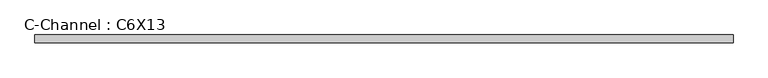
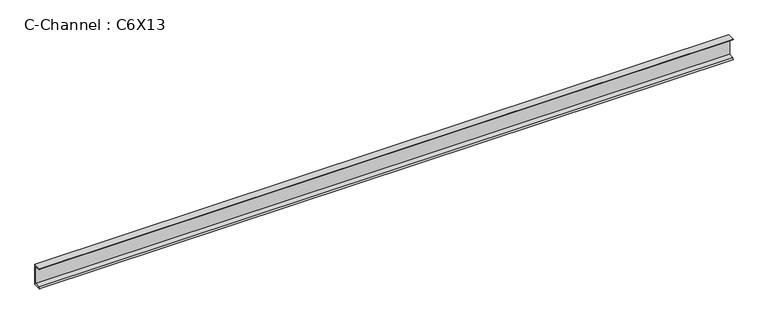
"""IFC4 building model written with IfcOpenShell, lengths in millimetres: beam geometry, C-Channel : C6X13."""

from ifc_helpers import new_model, si_unit, point, frame, frame_2d, origin, place, context, project, spatial, polyline, circle_curve, trimmed, segment, composite_curve, outline, extrude, source, transform, mapped, element, save


def c_channel_c6x13_5e4b8ca6(model_context):
    return source(origin(), model_context, "Body", "SweptSolid", [
        extrude(outline(composite_curve([segment(polyline([(13.0556, 76.2), (13.0556, -76.2), (-41.8084, -76.2)]), True, "CONTINUOUS"), segment(trimmed(circle_curve(frame_2d((-33.0962, -76.2)), 8.7122), [point((-41.8084, -76.2))], [point((-33.0962, -67.4878))], False, "CARTESIAN"), True, "CONTINUOUS"), segment(polyline([(-33.0962, -67.4878), (1.9558, -61.9361086), (1.9558, 61.9361086), (-33.0962, 67.4878)]), True, "CONTINUOUS"), segment(trimmed(circle_curve(frame_2d((-33.0962, 76.2)), 8.7122), [point((-33.0962, 67.4878))], [point((-41.8084, 76.2))], False, "CARTESIAN"), True, "CONTINUOUS"), segment(polyline([(-41.8084, 76.2), (13.0556, 76.2)]), True, "CONTINUOUS")], self_intersect=False)), frame((-2434.3170578, 0.0, 0.0), z_axis=(1.0, 0.0, 0.0), x_axis=(0.0, 1.0, 0.0)), (0.0, 0.0, 1.0), 4934.3170592),
    ])


if __name__ == "__main__":
    model = new_model("IFC4")
    model_context = context("Model", 3, world=origin())
    ifc_project = project(units=[si_unit("LENGTHUNIT", "METRE", prefix="MILLI")], contexts=[model_context])
    site = spatial("IfcSite", under=ifc_project)
    building = spatial("IfcBuilding", under=site)
    placement = place(None, origin())
    c_channel_c6x13_shape = c_channel_c6x13_5e4b8ca6(model_context)
    element("IfcBeam", 1, ObjectType="C-Channel : C6X13", at=placement, inside=building, context=model_context, shape_type="MappedRepresentation", body=[
        mapped(c_channel_c6x13_shape, transform((0.0, 0.0, 0.0), x_axis=(1.0, 0.0, 0.0), y_axis=(0.0, 1.0, 0.0), z_axis=(0.0, 0.0, 1.0))),
    ])
    save(model, "model.ifc")
